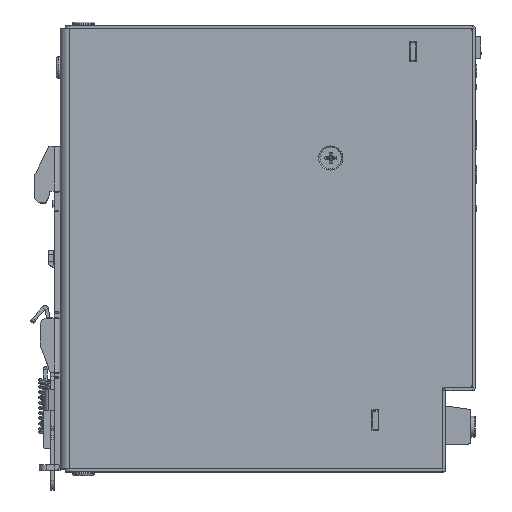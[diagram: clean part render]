
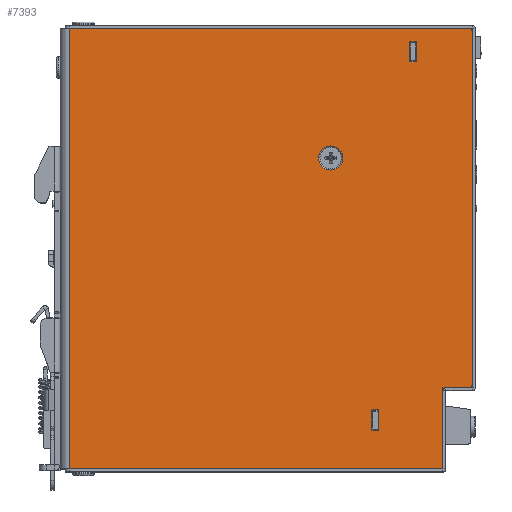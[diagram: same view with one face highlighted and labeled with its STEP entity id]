
A CAD part, top view. The second image highlights one B-rep face of the part: STEP entity #7393.
In plain terms, the highlighted planar face has unit normal (0, 0, 1).
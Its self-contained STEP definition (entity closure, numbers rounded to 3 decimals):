
#2413=DIRECTION('',(0.,-1.,0.));
#2414=VECTOR('',#2413,122.4);
#2415=CARTESIAN_POINT('',(1.,61.2,20.));
#2416=LINE('',#2415,#2414);
#2431=DIRECTION('',(0.,-1.,0.));
#2432=VECTOR('',#2431,5.6);
#2433=CARTESIAN_POINT('',(97.55,57.5,20.));
#2434=LINE('',#2433,#2432);
#2435=DIRECTION('',(1.,0.,0.));
#2436=VECTOR('',#2435,1.9);
#2437=CARTESIAN_POINT('',(95.65,57.5,20.));
#2438=LINE('',#2437,#2436);
#2439=DIRECTION('',(0.,1.,0.));
#2440=VECTOR('',#2439,5.6);
#2441=CARTESIAN_POINT('',(95.65,51.9,20.));
#2442=LINE('',#2441,#2440);
#2443=DIRECTION('',(-1.,0.,0.));
#2444=VECTOR('',#2443,1.9);
#2445=CARTESIAN_POINT('',(97.55,51.9,20.));
#2446=LINE('',#2445,#2444);
#2447=DIRECTION('',(0.,-1.,0.));
#2448=VECTOR('',#2447,5.6);
#2449=CARTESIAN_POINT('',(87.05,-44.8,20.));
#2450=LINE('',#2449,#2448);
#2451=DIRECTION('',(1.,0.,0.));
#2452=VECTOR('',#2451,1.9);
#2453=CARTESIAN_POINT('',(85.15,-44.8,20.));
#2454=LINE('',#2453,#2452);
#2455=DIRECTION('',(0.,1.,0.));
#2456=VECTOR('',#2455,5.6);
#2457=CARTESIAN_POINT('',(85.15,-50.4,20.));
#2458=LINE('',#2457,#2456);
#2459=DIRECTION('',(-1.,0.,0.));
#2460=VECTOR('',#2459,1.9);
#2461=CARTESIAN_POINT('',(87.05,-50.4,20.));
#2462=LINE('',#2461,#2460);
#2463=CARTESIAN_POINT('',(112.1,60.2,20.));
#2464=DIRECTION('',(0.,0.,1.));
#2465=DIRECTION('',(1.,0.,0.));
#2466=AXIS2_PLACEMENT_3D('',#2463,#2464,#2465);
#2468=DIRECTION('',(0.,1.,0.));
#2469=VECTOR('',#2468,97.8);
#2470=CARTESIAN_POINT('',(113.1,-37.6,20.));
#2471=LINE('',#2470,#2469);
#2472=CARTESIAN_POINT('',(112.1,-37.6,20.));
#2473=DIRECTION('',(0.,0.,1.));
#2474=DIRECTION('',(0.,-1.,0.));
#2475=AXIS2_PLACEMENT_3D('',#2472,#2473,#2474);
#2477=DIRECTION('',(-1.,0.,0.));
#2478=VECTOR('',#2477,7.2);
#2479=CARTESIAN_POINT('',(112.1,-38.6,20.));
#2480=LINE('',#2479,#2478);
#2481=DIRECTION('',(0.,1.,0.));
#2482=VECTOR('',#2481,21.6);
#2483=CARTESIAN_POINT('',(104.9,-60.2,20.));
#2484=LINE('',#2483,#2482);
#2485=CARTESIAN_POINT('',(103.9,-60.2,20.));
#2486=DIRECTION('',(0.,0.,1.));
#2487=DIRECTION('',(0.,-1.,0.));
#2488=AXIS2_PLACEMENT_3D('',#2485,#2486,#2487);
#2490=DIRECTION('',(1.,0.,0.));
#2491=VECTOR('',#2490,102.9);
#2492=CARTESIAN_POINT('',(1.,-61.2,20.));
#2493=LINE('',#2492,#2491);
#2494=DIRECTION('',(-1.,0.,0.));
#2495=VECTOR('',#2494,111.1);
#2496=CARTESIAN_POINT('',(112.1,61.2,20.));
#2497=LINE('',#2496,#2495);
#2498=CARTESIAN_POINT('',(73.7,25.2,20.));
#2499=DIRECTION('',(0.,0.,1.));
#2500=DIRECTION('',(-1.,0.,0.));
#2501=AXIS2_PLACEMENT_3D('',#2498,#2499,#2500);
#2503=CARTESIAN_POINT('',(73.7,25.2,20.));
#2504=DIRECTION('',(0.,0.,1.));
#2505=DIRECTION('',(1.,0.,0.));
#2506=AXIS2_PLACEMENT_3D('',#2503,#2504,#2505);
#3081=CARTESIAN_POINT('',(1.,61.2,20.));
#3082=CARTESIAN_POINT('',(1.,-61.2,20.));
#3083=VERTEX_POINT('',#3081);
#3084=VERTEX_POINT('',#3082);
#3390=CARTESIAN_POINT('',(104.9,-38.6,20.));
#3392=VERTEX_POINT('',#3390);
#3405=CARTESIAN_POINT('',(87.05,-44.8,20.));
#3406=CARTESIAN_POINT('',(87.05,-50.4,20.));
#3407=VERTEX_POINT('',#3405);
#3408=VERTEX_POINT('',#3406);
#3409=CARTESIAN_POINT('',(85.15,-50.4,20.));
#3410=VERTEX_POINT('',#3409);
#3411=CARTESIAN_POINT('',(85.15,-44.8,20.));
#3412=VERTEX_POINT('',#3411);
#3421=CARTESIAN_POINT('',(97.55,57.5,20.));
#3422=CARTESIAN_POINT('',(97.55,51.9,20.));
#3423=VERTEX_POINT('',#3421);
#3424=VERTEX_POINT('',#3422);
#3425=CARTESIAN_POINT('',(95.65,51.9,20.));
#3426=VERTEX_POINT('',#3425);
#3427=CARTESIAN_POINT('',(95.65,57.5,20.));
#3428=VERTEX_POINT('',#3427);
#3713=CARTESIAN_POINT('',(113.1,60.2,20.));
#3714=CARTESIAN_POINT('',(112.1,61.2,20.));
#3715=VERTEX_POINT('',#3713);
#3716=VERTEX_POINT('',#3714);
#3731=CARTESIAN_POINT('',(113.1,-37.6,20.));
#3732=VERTEX_POINT('',#3731);
#3739=CARTESIAN_POINT('',(112.1,-38.6,20.));
#3740=VERTEX_POINT('',#3739);
#3749=CARTESIAN_POINT('',(103.9,-61.2,20.));
#3750=VERTEX_POINT('',#3749);
#3751=CARTESIAN_POINT('',(104.9,-60.2,20.));
#3752=VERTEX_POINT('',#3751);
#3815=CARTESIAN_POINT('',(70.35,25.2,20.));
#3816=VERTEX_POINT('',#3815);
#3819=CARTESIAN_POINT('',(77.05,25.2,20.));
#3820=VERTEX_POINT('',#3819);
#7343=CARTESIAN_POINT('',(-1.5,-61.2,20.));
#7344=DIRECTION('',(0.,0.,1.));
#7345=DIRECTION('',(0.,-1.,0.));
#7346=AXIS2_PLACEMENT_3D('',#7343,#7344,#7345);
#7347=PLANE('',#7346);
#7349=ORIENTED_EDGE('',*,*,#7348,.F.);
#7351=ORIENTED_EDGE('',*,*,#7350,.F.);
#7353=ORIENTED_EDGE('',*,*,#7352,.F.);
#7355=ORIENTED_EDGE('',*,*,#7354,.T.);
#7357=ORIENTED_EDGE('',*,*,#7356,.F.);
#7359=ORIENTED_EDGE('',*,*,#7358,.F.);
#7361=ORIENTED_EDGE('',*,*,#7360,.F.);
#7362=ORIENTED_EDGE('',*,*,#7334,.F.);
#7364=ORIENTED_EDGE('',*,*,#7363,.F.);
#7365=EDGE_LOOP('',(#7349,#7351,#7353,#7355,#7357,#7359,#7361,#7362,#7364));
#7366=FACE_OUTER_BOUND('',#7365,.F.);
#7368=ORIENTED_EDGE('',*,*,#7367,.F.);
#7370=ORIENTED_EDGE('',*,*,#7369,.F.);
#7372=ORIENTED_EDGE('',*,*,#7371,.F.);
#7374=ORIENTED_EDGE('',*,*,#7373,.F.);
#7375=EDGE_LOOP('',(#7368,#7370,#7372,#7374));
#7376=FACE_BOUND('',#7375,.F.);
#7378=ORIENTED_EDGE('',*,*,#7377,.F.);
#7380=ORIENTED_EDGE('',*,*,#7379,.F.);
#7382=ORIENTED_EDGE('',*,*,#7381,.F.);
#7384=ORIENTED_EDGE('',*,*,#7383,.F.);
#7385=EDGE_LOOP('',(#7378,#7380,#7382,#7384));
#7386=FACE_BOUND('',#7385,.F.);
#7388=ORIENTED_EDGE('',*,*,#7387,.T.);
#7390=ORIENTED_EDGE('',*,*,#7389,.T.);
#7391=EDGE_LOOP('',(#7388,#7390));
#7392=FACE_BOUND('',#7391,.F.);
#2467=CIRCLE('',#2466,1.);
#2476=CIRCLE('',#2475,1.);
#2489=CIRCLE('',#2488,1.);
#2502=CIRCLE('',#2501,3.35);
#2507=CIRCLE('',#2506,3.35);
#7334=EDGE_CURVE('',#3083,#3084,#2416,.T.);
#7348=EDGE_CURVE('',#3715,#3716,#2467,.T.);
#7350=EDGE_CURVE('',#3732,#3715,#2471,.T.);
#7352=EDGE_CURVE('',#3740,#3732,#2476,.T.);
#7354=EDGE_CURVE('',#3740,#3392,#2480,.T.);
#7356=EDGE_CURVE('',#3752,#3392,#2484,.T.);
#7358=EDGE_CURVE('',#3750,#3752,#2489,.T.);
#7360=EDGE_CURVE('',#3084,#3750,#2493,.T.);
#7363=EDGE_CURVE('',#3716,#3083,#2497,.T.);
#7367=EDGE_CURVE('',#3407,#3408,#2450,.T.);
#7369=EDGE_CURVE('',#3412,#3407,#2454,.T.);
#7371=EDGE_CURVE('',#3410,#3412,#2458,.T.);
#7373=EDGE_CURVE('',#3408,#3410,#2462,.T.);
#7377=EDGE_CURVE('',#3423,#3424,#2434,.T.);
#7379=EDGE_CURVE('',#3428,#3423,#2438,.T.);
#7381=EDGE_CURVE('',#3426,#3428,#2442,.T.);
#7383=EDGE_CURVE('',#3424,#3426,#2446,.T.);
#7387=EDGE_CURVE('',#3816,#3820,#2502,.T.);
#7389=EDGE_CURVE('',#3820,#3816,#2507,.T.);
#7393=ADVANCED_FACE('',(#7366,#7376,#7386,#7392),#7347,.T.);
